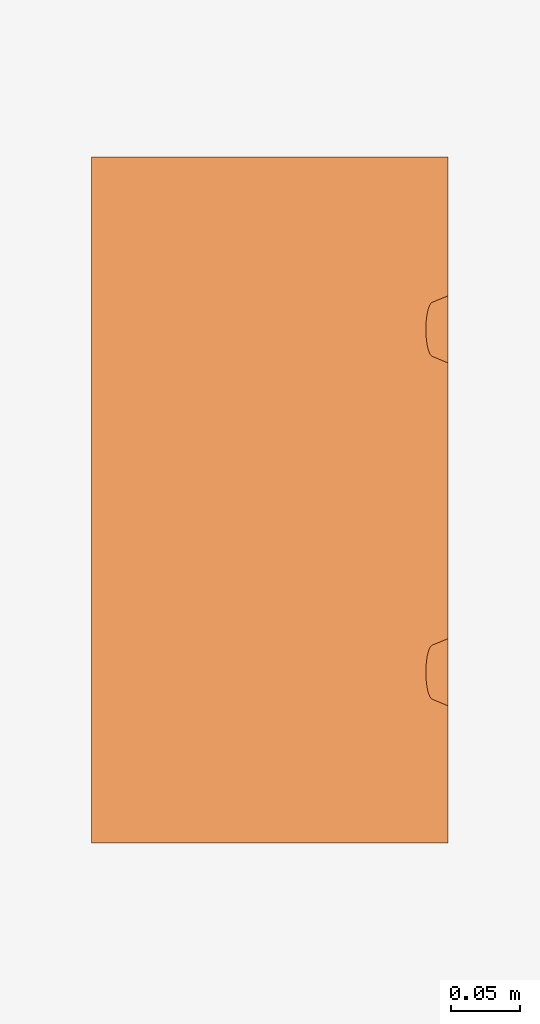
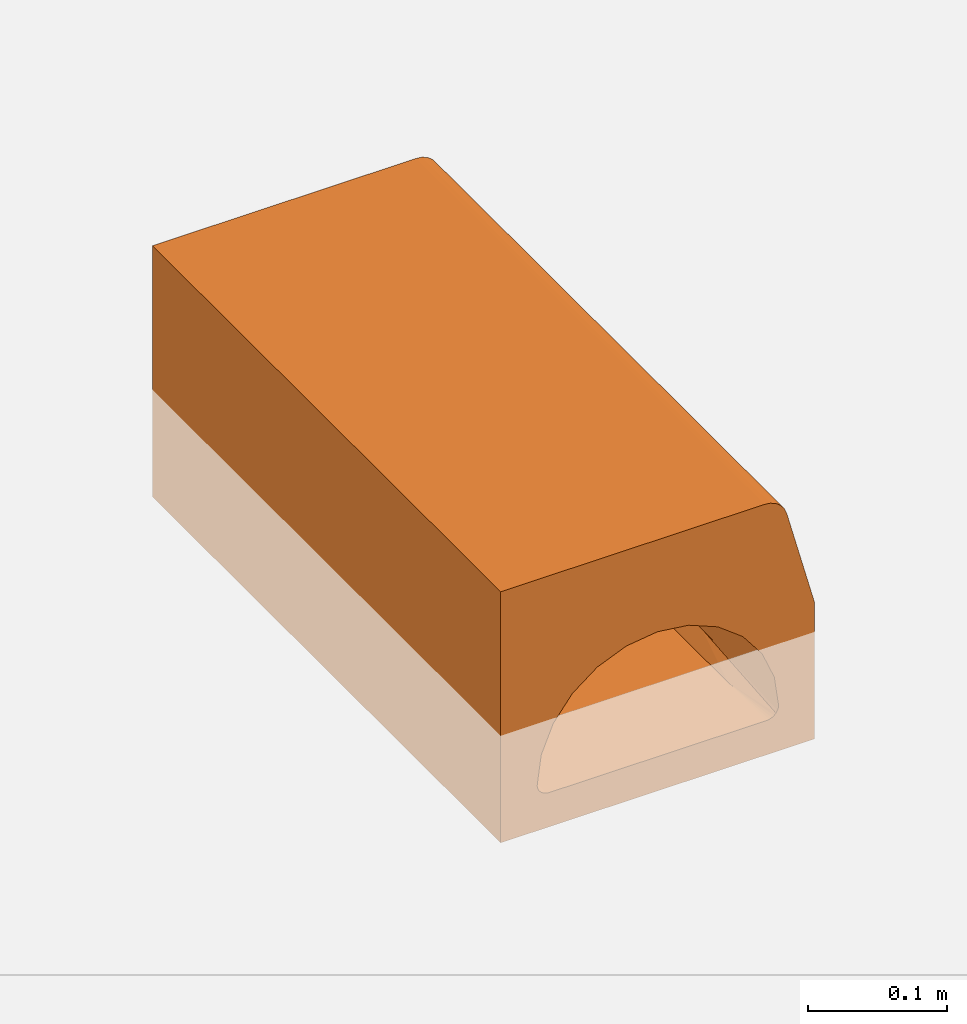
# One storey, part 2 of 2: 1 proxy.
"""IFC2X3 building model written with IfcOpenShell, lengths in millimetres."""

from ifc_helpers import new_model, entity, si_unit, converted_unit, direction, frame, origin, place, context, subcontext, project, spatial, faceted_brep, source, transform, mapped, material, element, save


model = new_model("IFC2X3")

# Units and contexts
model_context = context("Model", 3, precision=1e-06, world=origin(), true_north=direction((2.0, 6.12303176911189e-17, 1.0)))
context_of_model = context(None, 3, precision=1e-06, world=origin(), true_north=direction((2.0, 6.12303176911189e-17, 1.0)))
body_context = subcontext(model_context, "Body", "Model", "MODEL_VIEW")
ifc_project = project(units=[si_unit("LENGTHUNIT", "METRE", prefix="MILLI"), si_unit("AREAUNIT", "SQUARE_METRE", prefix="MILLI"), si_unit("VOLUMEUNIT", "CUBIC_METRE", prefix="MILLI"), converted_unit("PLANEANGLEUNIT", "DEGREE", entity("IfcRatioMeasure", 0.0174532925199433), si_unit("PLANEANGLEUNIT", "RADIAN"), dimensions=[0, 0, 0, 0, 0, 0, 0]), si_unit("TIMEUNIT", "SECOND")], contexts=[model_context, context_of_model])

# Site, building, storey
site_placement = place(None, origin())
site = spatial("IfcSite", under=ifc_project, at=site_placement, Name="Default", CompositionType="ELEMENT")
building_placement = place(site_placement, origin())
building = spatial("IfcBuilding", under=site, at=building_placement, CompositionType="ELEMENT")
storey_placement = place(building_placement, origin())
storey = spatial("IfcBuildingStorey", under=building, at=storey_placement, Name="Level 1", CompositionType="ELEMENT", Elevation=0.0)

# Proxy
ifc_material = material(Name="ACO Polymer Concrete.")
shared_shape = source(origin(), body_context, "Body", "Brep", [
    faceted_brep([(9.63715044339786e-06, 144.453335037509, 65.0), (9.63715040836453e-06, 143.771851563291, 70.1763809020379), (9.63715034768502e-06, 138.595470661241, 79.1421356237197), (9.63715040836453e-06, 105.134818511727, 70.1763809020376), (9.63715037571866e-06, 141.773843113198, 75.0), (9.63715032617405e-06, 134.45333503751, 82.320508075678), (9.63715031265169e-06, 129.62971593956, 84.3185165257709), (9.63715034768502e-06, 110.311199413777, 79.1421356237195), (9.63715044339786e-06, 104.453335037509, 65.0), (9.63715058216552e-06, 146.700241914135, 44.4962604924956), (9.63715037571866e-06, 107.132826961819, 75.0), (9.63715030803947e-06, 124.453335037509, 85.0), (9.63715031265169e-06, 119.276954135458, 84.3185165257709), (9.63715032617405e-06, 114.453335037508, 82.3205080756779), (9.63715058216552e-06, 102.152802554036, 44.4962604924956), (130.000009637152, 500.0, -95.0), (99.2855152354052, 500.0, -59.2990928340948), (100.017703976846, 500.0, -57.1736244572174), (98.0970405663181, 500.0, -61.2072972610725), (100.25660404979, 500.0, -54.9383072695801), (130.000009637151, 500.0, 25.0), (90.2567943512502, 500.0, -65.0), (92.4905951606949, 500.0, -64.7473141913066), (-89.8609941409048, 500.0, -65.0), (96.5123421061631, 500.0, -62.8018025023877), (94.6115060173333, 500.0, -64.0020267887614), (105.080360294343, 500.0, 115.499999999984), (106.978468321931, 500.0, 110.917561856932), (93.5434394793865, 500.0, 124.352590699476), (98.1258776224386, 500.0, 122.454482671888), (102.060906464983, 500.0, 119.435028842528), (70.6258436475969, 500.0, 15.5185016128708), (60.2507721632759, 500.0, 23.4077811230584), (49.8757006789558, 500.0, 31.2970606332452), (88.6258776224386, 500.0, 125.0), (86.5957454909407, 500.0, -5.0847406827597), (78.6107945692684, 500.0, 5.21688046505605), (96.7013296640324, 500.0, -29.114067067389), (-129.999990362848, 500.0, -95.0), (-92.3595911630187, 500.0, -64.6828205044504), (-94.6996874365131, 500.0, -63.7514025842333), (-96.7328368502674, 500.0, -62.2648315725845), (-98.3300647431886, 500.0, -60.3174094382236), (-99.3900495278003, 500.0, -58.0326726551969), (-99.8455501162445, 500.0, -55.5555555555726), (-96.4496601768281, 500.0, -29.7098733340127), (-129.999990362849, 500.0, 125.0), (-0.102146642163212, 500.0, 44.4959975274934), (-25.9372307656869, 500.0, 41.0203988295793), (25.7538877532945, 500.0, 41.1798486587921), (12.825870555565, 500.0, 42.8379230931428), (-70.6500208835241, 500.0, 15.0827127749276), (-86.492511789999, 500.0, -5.61866012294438), (-49.9976150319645, 500.0, 30.9889848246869), (37.8147942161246, 500.0, 36.2384546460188), (-129.999990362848, 0.0, -95.0), (-98.3300647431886, 0.0, -60.3174094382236), (-99.3900495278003, 0.0, -58.0326726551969), (-96.7328368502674, 0.0, -62.2648315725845), (-99.8455501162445, 0.0, -55.5555555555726), (-96.4496601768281, 0.0, -29.7098733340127), (-129.999990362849, 0.0, 125.0), (-89.8609941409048, 0.0, -65.0), (-92.3595911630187, 0.0, -64.6828205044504), (130.000009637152, 0.0, -95.0), (-94.6996874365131, 0.0, -63.7514025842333), (-86.492511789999, 0.0, -5.61866012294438), (-70.6500208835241, 0.0, 15.0827127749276), (-49.9976150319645, 0.0, 30.9889848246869), (-25.9372307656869, 0.0, 41.0203988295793), (49.8757006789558, 0.0, 31.2970606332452), (60.2507721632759, 0.0, 23.4077811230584), (106.978468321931, 0.0, 110.917561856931), (88.6258776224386, 0.0, 125.0), (-0.102146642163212, 0.0, 44.4959975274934), (25.7538877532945, 0.0, 41.1798486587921), (37.8147942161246, 0.0, 36.2384546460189), (92.4905951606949, 0.0, -64.7473141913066), (90.2567943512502, 0.0, -65.0), (96.5123421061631, 0.0, -62.8018025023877), (94.6115060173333, 0.0, -64.0020267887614), (98.0970405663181, 0.0, -61.2072972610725), (99.2855152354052, 0.0, -59.2990928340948), (100.017703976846, 0.0, -57.1736244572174), (100.25660404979, 0.0, -54.9383072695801), (130.000009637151, 0.0, 25.0), (93.5434394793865, 0.0, 124.352590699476), (105.080360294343, 0.0, 115.499999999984), (86.5957454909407, 0.0, -5.0847406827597), (96.7013296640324, 0.0, -29.114067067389), (70.6258436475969, 0.0, 15.5185016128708), (78.6107945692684, 0.0, 5.21688046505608), (102.060906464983, 0.0, 119.435028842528), (98.1258776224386, 0.0, 122.454482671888), (130.000009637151, 118.496854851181, -4.31259771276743), (130.000009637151, 112.402818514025, -1.97690974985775), (130.000009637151, 124.987762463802, -4.99144637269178), (130.000009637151, 107.12095195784, 1.85644424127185), (130.000009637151, 103.011205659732, 6.92622752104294), (130.000009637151, 131.433196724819, -3.9671933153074), (130.000009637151, 368.496854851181, -4.3125977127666), (130.000009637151, 142.4636952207, 2.80010660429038), (130.000009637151, 137.393911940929, -1.30963969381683), (130.000009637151, 357.12095195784, 1.85644424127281), (130.000009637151, 353.011205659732, 6.92622752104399), (130.000009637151, 362.402818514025, -1.97690974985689), (130.000009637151, 100.353652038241, 12.8869427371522), (130.000009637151, 99.3293989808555, 19.3323769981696), (130.000009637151, 99.9653098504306, 25.0), (130.000009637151, 149.311585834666, 20.6669171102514), (130.000009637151, 148.632737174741, 14.1760094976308), (130.000009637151, 349.329398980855, 19.3323769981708), (130.000009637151, 349.96530985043, 25.0), (130.000009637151, 148.836743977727, 25.0), (130.000009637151, 146.297049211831, 8.08197316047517), (130.000009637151, 350.353652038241, 12.8869427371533), (130.000009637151, 374.987762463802, -4.99144637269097), (130.000009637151, 381.433196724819, -3.96719331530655), (130.000009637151, 387.393911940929, -1.30963969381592), (130.000009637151, 392.4636952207, 2.8001066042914), (130.000009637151, 396.297049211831, 8.08197316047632), (130.000009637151, 398.632737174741, 14.176009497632), (130.000009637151, 398.836743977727, 25.0), (130.000009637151, 399.311585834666, 20.6669171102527), (88.6258776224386, 152.199908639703, 125.0), (88.6258776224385, 304.399753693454, 125.0), (90.2567943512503, 209.373916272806, -65.0), (90.2567943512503, 139.582610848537, -65.0), (100.25660404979, 180.208684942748, -54.93830726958), (100.25660404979, 249.999993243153, -54.93830726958), (90.2567943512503, 55.2087053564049, -65.0), (100.25660404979, 110.417390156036, -54.93830726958), (90.2567943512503, 389.582618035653, -65.0), (100.25660404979, 319.791301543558, -54.9383072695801), (100.25660404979, 389.582609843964, -54.9383072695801), (90.2567943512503, 279.165221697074, -65.0), (-89.8609941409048, 444.791300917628, -65.0), (-89.8609941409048, 220.834789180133, -65.0), (-99.8455501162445, 249.999998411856, -55.5555555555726), (-99.8455501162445, 187.499998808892, -55.5555555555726), (-89.8609941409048, 165.626090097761, -65.0), (-99.8455501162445, 124.999999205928, -55.5555555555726), (-89.8609941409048, 110.41739101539, -65.0), (-99.8455501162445, 55.2086967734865, -55.5555555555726), (-89.8609941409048, 55.2086919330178, -65.0), (-99.8455501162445, 389.582606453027, -55.5555555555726), (-99.8455501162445, 319.791300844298, -55.5555555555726), (-89.8609941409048, 360.41739101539, -65.0), (-99.8455501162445, 444.791303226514, -55.5555555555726), (-89.8609941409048, 290.626090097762, -65.0), (46.6438825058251, 100.870444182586, 33.0671056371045), (35.3308644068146, 101.350362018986, 37.3444242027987), (9.63714861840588e-06, 352.152802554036, 44.4962604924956), (24.0178463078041, 101.830279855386, 41.621742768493), (23.3581503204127, 146.99779232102, 41.7810184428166), (9.63714995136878e-06, 396.700241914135, 44.4962604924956), (24.0178463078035, 351.830279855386, 41.6217427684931), (46.643882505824, 350.870444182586, 33.067105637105), (45.4373919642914, 147.884568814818, 33.6889010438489), (65.0180765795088, 149.311585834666, 20.666917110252), (11.6790799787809, 396.849017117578, 43.1386394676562), (23.358150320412, 396.99779232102, 41.7810184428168), (34.3977711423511, 397.441180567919, 37.7349597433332), (45.4373919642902, 397.884568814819, 33.6889010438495), (56.5997420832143, 100.099921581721, 26.199741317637), (73.7594445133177, 100.545298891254, 12.2704703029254), (66.5556016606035, 99.3293989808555, 19.3323769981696), (66.5556016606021, 349.329398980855, 19.3323769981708), (72.415603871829, 148.513612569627, 13.6994139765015), (73.7594445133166, 350.545298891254, 12.2704703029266), (78.7437956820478, 145.31773578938, 6.43072040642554), (84.1816536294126, 111.010592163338, -1.16273833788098), (86.3493720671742, 120.241681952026, -4.66537484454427), (86.3493720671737, 370.241681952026, -4.66537484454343), (83.4832962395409, 389.187452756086, -0.0994447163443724), (81.1135459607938, 392.252594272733, 3.16563784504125), (78.7437956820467, 395.31773578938, 6.43072040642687), (86.2304865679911, 125.290476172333, -4.46519993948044), (86.1116010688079, 130.33927039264, -4.26502503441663), (85.2655128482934, 115.626137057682, -2.91405659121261), (84.181653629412, 361.010592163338, -1.16273833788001), (84.7974486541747, 134.763361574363, -2.18223487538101), (83.4832962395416, 139.187452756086, -0.0994447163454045), (79.817271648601, 104.285924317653, 5.04584882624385), (81.9994626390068, 107.648258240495, 1.94155524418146), (79.8172716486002, 354.285924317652, 5.04584882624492), (81.1135459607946, 142.252594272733, 3.16563784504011), (55.2277342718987, 398.598077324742, 27.1779090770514), (65.0180765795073, 399.311585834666, 20.6669171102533), (72.4156038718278, 398.513612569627, 13.6994139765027), (81.9994626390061, 357.648258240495, 1.94155524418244), (86.2304865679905, 375.290476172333, -4.4651999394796), (86.1116010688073, 380.33927039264, -4.26502503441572), (85.2655128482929, 365.626137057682, -2.91405659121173), (84.7974486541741, 384.763361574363, -2.18223487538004), (119.282041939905, 104.453335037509, 65.0), (117.999553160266, 105.034498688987, 69.786313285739), (119.282041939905, 144.453335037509, 65.0), (119.282041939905, 354.453335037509, 65.0), (116.791597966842, 142.162455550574, 74.2944634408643), (117.999553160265, 143.87217138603, 69.7863132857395), (117.999553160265, 355.034498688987, 69.7863132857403), (116.791597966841, 356.744214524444, 74.294463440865), (116.791597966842, 106.744214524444, 74.2944634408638), (115.728378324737, 109.483120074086, 78.262453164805), (114.871684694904, 113.092040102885, 81.4596773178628), (114.271304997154, 117.361237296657, 83.7003248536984), (113.962131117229, 122.042601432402, 84.8541774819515), (114.871684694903, 135.814629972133, 81.4596773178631), (115.728378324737, 139.423550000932, 78.2624531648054), (115.728378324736, 359.483120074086, 78.2624531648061), (114.871684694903, 363.092040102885, 81.4596773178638), (113.962131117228, 372.042601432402, 84.8541774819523), (113.962131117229, 126.864068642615, 84.8541774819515), (114.271304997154, 131.54543277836, 83.7003248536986), (114.271304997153, 367.361237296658, 83.7003248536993), (119.282041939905, 394.453335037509, 65.0), (117.999553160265, 393.87217138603, 69.7863132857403), (116.791597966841, 392.162455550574, 74.2944634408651), (114.871684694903, 385.814629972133, 81.4596773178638), (115.728378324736, 389.423550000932, 78.2624531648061), (113.962131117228, 376.864068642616, 84.8541774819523), (114.271304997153, 381.54543277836, 83.7003248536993), (106.978468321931, 423.900064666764, 110.917561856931), (100.192344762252, 383.807890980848, 121.073713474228), (103.699591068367, 348.576324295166, 117.5664671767), (105.66949189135, 104.875634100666, 114.39733366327), (103.699591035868, 151.423670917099, 117.566467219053), (95.8968628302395, 348.576326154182, 123.553711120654), (92.0249211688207, 364.149902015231, 124.693488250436), (92.6444200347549, 238.971100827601, 124.570172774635), (105.523211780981, 238.971095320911, 114.687928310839), (106.978468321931, 304.399745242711, 110.917561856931), (105.802663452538, 364.149900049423, 114.12145482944), (100.192344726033, 116.192108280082, 121.07371350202), (102.995163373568, 249.999998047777, 118.430753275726), (96.9140184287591, 250.0, 123.096979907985), (100.192344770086, 249.999999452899, 121.073713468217), (88.6258776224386, 423.900077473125, 125.0), (106.978468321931, 152.199872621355, 110.917561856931), (95.8968627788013, 151.423674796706, 123.55371114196), (92.3258671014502, 104.875635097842, 124.636257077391), (9.63715034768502e-06, 388.595470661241, 79.1421356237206), (9.63715040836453e-06, 355.134818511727, 70.1763809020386), (9.63715040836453e-06, 393.771851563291, 70.1763809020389), (9.63715037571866e-06, 391.773843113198, 75.0), (9.63715044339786e-06, 394.453335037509, 65.0), (9.63715044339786e-06, 354.453335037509, 65.0), (9.63715032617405e-06, 384.453335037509, 82.3205080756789), (9.63715031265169e-06, 379.62971593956, 84.3185165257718), (9.63715030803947e-06, 374.453335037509, 85.0), (9.63715034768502e-06, 360.311199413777, 79.1421356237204), (9.63715037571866e-06, 357.132826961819, 75.0), (9.63715031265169e-06, 369.276954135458, 84.3185165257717), (9.63715032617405e-06, 364.453335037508, 82.3205080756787)], [[[0, 1, 2, 3]], [[2, 1, 4]], [[2, 5, 6, 7]], [[8, 9, 0, 3]], [[3, 2, 7, 10]], [[11, 12, 13, 6]], [[6, 13, 7]], [[14, 9, 8]], [[15, 16, 17]], [[16, 15, 18]], [[15, 17, 19, 20]], [[21, 22, 15, 23]], [[24, 18, 15]], [[25, 24, 15]], [[22, 25, 15]], [[26, 27, 28, 29]], [[29, 30, 26]], [[27, 20, 31, 32]], [[27, 33, 34, 28]], [[20, 35, 36, 31]], [[35, 20, 37]], [[20, 19, 37]], [[38, 39, 23, 15]], [[39, 38, 40]], [[41, 38, 42]], [[38, 41, 40]], [[43, 42, 38]], [[44, 43, 38]], [[45, 44, 38, 46]], [[46, 34, 47, 48]], [[34, 49, 50, 47]], [[51, 52, 46]], [[48, 53, 46]], [[46, 53, 51]], [[52, 45, 46]], [[34, 33, 54, 49]], [[55, 56, 57]], [[56, 55, 58]], [[57, 59, 55]], [[55, 59, 60, 61]], [[62, 63, 55, 64]], [[65, 58, 55]], [[63, 65, 55]], [[66, 67, 61]], [[61, 68, 69]], [[68, 61, 67]], [[66, 61, 60]], [[70, 71, 72, 73]], [[74, 73, 61, 69]], [[74, 75, 73]], [[73, 75, 76, 70]], [[64, 77, 78, 62]], [[79, 80, 64]], [[77, 64, 80]], [[81, 64, 82]], [[64, 81, 79]], [[83, 82, 64]], [[84, 83, 64, 85]], [[86, 73, 72, 87]], [[88, 89, 85]], [[90, 91, 85, 72]], [[87, 92, 93, 86]], [[89, 84, 85]], [[15, 64, 55, 38]], [[64, 94, 95]], [[94, 64, 96]], [[95, 97, 64]], [[64, 97, 98]], [[99, 96, 64, 100]], [[101, 102, 103, 104]], [[102, 99, 105, 103]], [[106, 107, 85]], [[108, 85, 107]], [[98, 106, 85, 64]], [[109, 110, 111, 112]], [[113, 109, 112]], [[110, 114, 115, 111]], [[114, 101, 104, 115]], [[15, 116, 100, 64]], [[105, 99, 100]], [[117, 15, 118]], [[15, 117, 116]], [[119, 118, 15]], [[120, 119, 15, 20]], [[121, 120, 20]], [[122, 123, 20]], [[20, 123, 121]], [[61, 73, 124, 125]], [[34, 46, 61]], [[55, 61, 46, 38]], [[126, 127, 128, 129]], [[130, 77, 80]], [[127, 130, 131, 128]], [[79, 81, 130]], [[84, 131, 83]], [[21, 132, 22]], [[132, 18, 24]], [[131, 81, 82]], [[130, 81, 131]], [[130, 78, 77]], [[133, 134, 132, 135]], [[129, 133, 135, 126]], [[134, 19, 17]], [[25, 132, 24]], [[16, 134, 17]], [[22, 132, 25]], [[134, 18, 132]], [[134, 16, 18]], [[80, 79, 130]], [[131, 82, 83]], [[23, 136, 78, 130]], [[137, 138, 139, 140]], [[141, 142, 140, 139]], [[136, 40, 41]], [[143, 56, 58]], [[142, 141, 143, 144]], [[56, 143, 57]], [[145, 146, 147, 136]], [[62, 144, 63]], [[136, 41, 148]], [[143, 59, 57]], [[146, 138, 149, 147]], [[148, 41, 42]], [[44, 148, 43]], [[43, 148, 42]], [[136, 39, 40]], [[136, 23, 39]], [[65, 144, 58]], [[136, 148, 145]], [[143, 58, 144]], [[63, 144, 65]], [[138, 137, 149]], [[68, 67, 51, 53]], [[69, 68, 53, 48]], [[60, 59, 143, 141]], [[66, 60, 45, 52]], [[67, 66, 52, 51]], [[14, 74, 69]], [[150, 70, 76]], [[76, 75, 151]], [[9, 14, 69, 152]], [[14, 153, 74]], [[152, 154, 9]], [[75, 74, 153]], [[47, 155, 48]], [[60, 44, 45]], [[156, 154, 152]], [[156, 157, 158]], [[158, 157, 159]], [[152, 69, 48, 155]], [[160, 155, 47]], [[151, 150, 76]], [[161, 49, 162]], [[163, 162, 54]], [[161, 160, 50]], [[154, 156, 158]], [[71, 70, 164]], [[165, 90, 166]], [[71, 166, 90]], [[165, 91, 90]], [[167, 168, 159]], [[164, 166, 71]], [[54, 162, 49]], [[169, 170, 168]], [[91, 171, 88]], [[167, 159, 157]], [[89, 88, 172]], [[89, 172, 173, 37]], [[36, 174, 175, 176]], [[150, 164, 70]], [[173, 172, 177, 178]], [[54, 33, 163]], [[88, 171, 179, 172]], [[180, 178, 181, 182]], [[37, 84, 89]], [[91, 183, 184, 171]], [[185, 182, 186, 170]], [[168, 167, 169]], [[32, 187, 33]], [[50, 160, 47]], [[163, 33, 187]], [[188, 187, 32]], [[36, 176, 189]], [[188, 31, 189]], [[189, 31, 36]], [[183, 91, 165]], [[182, 185, 190, 180]], [[35, 173, 191, 192]], [[50, 49, 161]], [[178, 180, 193, 173]], [[32, 31, 188]], [[35, 174, 36]], [[35, 192, 194, 174]], [[37, 173, 35]], [[37, 19, 134, 133]], [[153, 151, 75]], [[185, 170, 169]], [[85, 108, 195, 72]], [[196, 72, 195]], [[197, 113, 112, 198]], [[199, 200, 201, 202]], [[200, 197, 198, 201]], [[72, 196, 203]], [[204, 205, 72]], [[72, 206, 207]], [[206, 72, 205]], [[204, 72, 203]], [[208, 209, 210, 211]], [[212, 213, 214, 215]], [[72, 207, 213, 212]], [[214, 208, 211, 215]], [[209, 199, 202, 210]], [[122, 20, 216]], [[27, 217, 216, 20]], [[27, 218, 217]], [[219, 220, 27]], [[221, 222, 27]], [[27, 222, 219]], [[212, 221, 27, 223]], [[220, 218, 27]], [[30, 224, 225]], [[87, 226, 227]], [[228, 229, 230]], [[231, 232, 233]], [[26, 30, 225]], [[233, 26, 225]], [[234, 227, 235]], [[29, 28, 228]], [[30, 29, 224]], [[87, 227, 92]], [[236, 224, 228]], [[26, 223, 27]], [[237, 234, 235, 224]], [[28, 34, 238]], [[72, 239, 226]], [[93, 240, 86]], [[229, 238, 125]], [[234, 240, 93]], [[240, 241, 86]], [[93, 92, 234]], [[237, 224, 236, 234]], [[124, 241, 230]], [[239, 232, 231]], [[228, 224, 29]], [[86, 241, 73]], [[227, 234, 92]], [[26, 233, 223]], [[232, 223, 233]], [[225, 235, 231]], [[225, 231, 233]], [[231, 227, 226]], [[230, 229, 125]], [[238, 229, 28]], [[28, 229, 228]], [[124, 230, 125]], [[230, 240, 236]], [[230, 236, 228]], [[234, 236, 240]], [[72, 226, 87]], [[231, 226, 239]], [[231, 235, 227]], [[224, 235, 225]], [[230, 241, 240]], [[73, 241, 124]], [[242, 243, 244, 245]], [[246, 244, 247, 155]], [[248, 249, 250, 242]], [[243, 242, 251, 252]], [[244, 243, 247]], [[251, 250, 253, 254]], [[250, 251, 242]], [[152, 155, 247]], [[3, 203, 196]], [[8, 196, 195]], [[13, 206, 205]], [[7, 205, 204]], [[10, 204, 203]], [[3, 10, 203]], [[196, 8, 3]], [[7, 13, 205]], [[204, 10, 7]], [[12, 206, 13]], [[12, 11, 207]], [[206, 12, 207]], [[5, 208, 214]], [[6, 214, 213]], [[0, 197, 200]], [[4, 199, 209]], [[199, 1, 200]], [[2, 209, 208]], [[11, 6, 213]], [[6, 5, 214]], [[5, 2, 208]], [[2, 4, 209]], [[199, 4, 1]], [[1, 0, 200]], [[207, 11, 213]], [[154, 0, 9]], [[0, 154, 158, 197]], [[113, 197, 159, 109]], [[158, 159, 197]], [[114, 110, 168]], [[102, 101, 182]], [[114, 170, 101]], [[177, 172, 96, 178]], [[159, 168, 109]], [[168, 110, 109]], [[171, 95, 179]], [[102, 182, 181]], [[170, 114, 168]], [[101, 170, 186, 182]], [[94, 172, 179]], [[102, 181, 99]], [[97, 171, 184, 183]], [[99, 178, 96]], [[106, 98, 165]], [[107, 106, 165]], [[96, 172, 94]], [[94, 179, 95]], [[178, 99, 181]], [[95, 171, 97]], [[165, 98, 183]], [[98, 97, 183]], [[165, 166, 107]], [[8, 195, 153, 14]], [[195, 150, 151, 153]], [[108, 107, 166, 195]], [[195, 166, 164, 150]], [[246, 155, 160, 161]], [[246, 161, 162, 163]], [[216, 246, 163, 187]], [[122, 216, 188, 123]], [[120, 121, 189]], [[118, 119, 174]], [[120, 176, 119]], [[191, 173, 116, 192]], [[188, 189, 123]], [[189, 121, 123]], [[180, 105, 193]], [[118, 174, 194]], [[176, 120, 189]], [[119, 176, 175, 174]], [[100, 173, 193]], [[118, 194, 117]], [[103, 180, 190, 185]], [[117, 192, 116]], [[115, 104, 169]], [[111, 115, 169]], [[116, 173, 100]], [[100, 193, 105]], [[192, 117, 194]], [[105, 180, 103]], [[169, 104, 185]], [[104, 103, 185]], [[169, 167, 111]], [[247, 198, 156, 152]], [[198, 157, 156]], [[112, 111, 167, 198]], [[157, 198, 167]], [[243, 202, 201]], [[247, 201, 198]], [[254, 215, 211]], [[251, 211, 210]], [[252, 210, 202]], [[243, 252, 202]], [[201, 247, 243]], [[251, 254, 211]], [[210, 252, 251]], [[253, 215, 254]], [[253, 250, 212]], [[215, 253, 212]], [[248, 219, 222]], [[249, 222, 221]], [[246, 216, 217]], [[245, 218, 220]], [[218, 244, 217]], [[242, 220, 219]], [[250, 249, 221]], [[249, 248, 222]], [[248, 242, 219]], [[242, 245, 220]], [[218, 245, 244]], [[244, 246, 217]], [[212, 250, 221]], [[27, 32, 33]], [[72, 71, 90]], [[85, 91, 88]], [[61, 125, 238, 34]], [[78, 136, 147, 149]], [[78, 149, 137, 140]], [[78, 140, 142, 144]], [[78, 144, 62]], [[23, 130, 127, 126]], [[23, 126, 135, 132]], [[23, 132, 21]], [[60, 141, 139, 138]], [[60, 138, 146, 145]], [[60, 145, 148, 44]], [[37, 133, 129, 128]], [[37, 128, 131, 84]], [[212, 223, 232, 239]], [[212, 239, 72]], [[216, 187, 188]]]),
])
proxy_placement = place(storey_placement, frame((-15229.1541432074, -316.659250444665, 0.0)))
element("IfcBuildingElementProxy", 1, at=proxy_placement, inside=storey, material=ifc_material, Name="Civil-Drainage-Channel-ACO-KerbDrain-KD200:T0127 - Channel - 500mm LG - 220mm High:T0127 - Channel - 500mm LG - 220mm High", ObjectType="T0127 - Channel - 500mm LG - 220mm High", CompositionType="ELEMENT", context=body_context, shape_type="MappedRepresentation", body=[
    mapped(shared_shape, transform((0.0, 0.0, 0.0), scale=1.0)),
])

save(model, "model.ifc")
